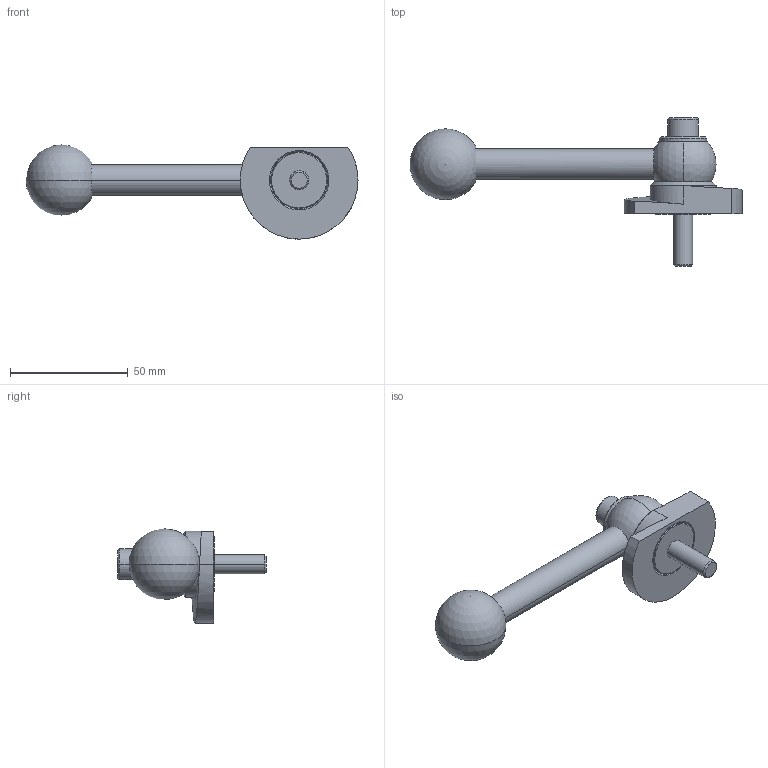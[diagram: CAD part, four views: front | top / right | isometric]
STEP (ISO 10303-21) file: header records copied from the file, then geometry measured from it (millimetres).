
FILE_DESCRIPTION (( 'STEP AP214' ), '1' );
FILE_NAME ('918.1-50-GVS-L-22.step', '2024-05-15T13:01:31', ( '' ), ( '' ), 'SwSTEP 2.0', 'SolidWorks 2022', '' );
FILE_SCHEMA (( 'AUTOMOTIVE_DESIGN' ));
Length unit declared in the file: millimetre
Products named in the file (1): 918.1-50-GVS-L-22
Bounding box: 141 x 63 x 40 mm (x, y, z)
Volume: 52090.7 mm3; surface area: 15897.2 mm2
Topology: 1 solids, 1 shells, 62 faces, 140 edges, 88 vertices
Faces by surface type: plane 20, cylinder 19, cone 14, sphere 4, bspline 3, torus 2
Entity records: 2001 total; most frequent: CARTESIAN_POINT 613, DIRECTION 305, ORIENTED_EDGE 260, EDGE_CURVE 130, AXIS2_PLACEMENT_3D 125, VERTEX_POINT 82, EDGE_LOOP 74, CIRCLE 65
